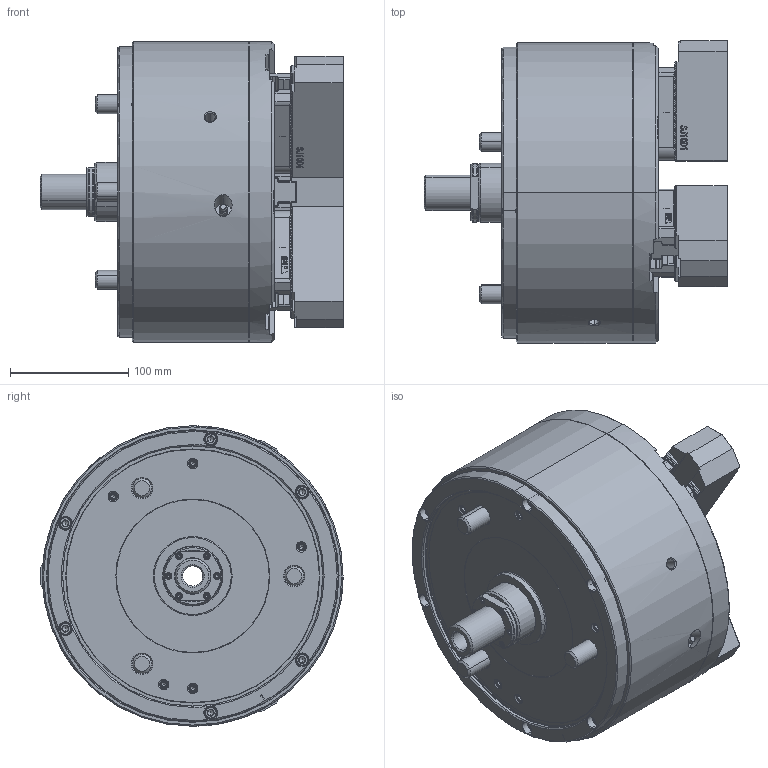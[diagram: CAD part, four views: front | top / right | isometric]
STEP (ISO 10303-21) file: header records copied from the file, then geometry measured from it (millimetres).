
FILE_DESCRIPTION (( 'STEP AP214' ), '1' );
FILE_NAME ('DL210_CL_ID.STEP', '2022-09-08T02:37:26', ( '' ), ( '' ), 'SwSTEP 2.0', 'SolidWorks 2020', '' );
FILE_SCHEMA (( 'AUTOMOTIVE_DESIGN' ));
Length unit declared in the file: millimetre
Products named in the file (5): 0030114040; 61P458879; DL210_CL_ID; 結合DL210_CL_ID^DL210; 61P390757
Assembly tree (13 placements, depth 2):
  DL210_CL_ID
    61P390757  x3
    61P458879  x3
    0030114040  x6
    結合DL210_CL_ID^DL210
Bounding box: 256.8 x 255.26 x 254 mm (x, y, z)
Volume: 7083656.2 mm3; surface area: 474865.4 mm2
Topology: 13 solids, 57 shells, 6020 faces, 16573 edges, 10784 vertices
Faces by surface type: plane 3769, cylinder 825, bspline 710, cone 678, torus 38
Entity records: 175978 total; most frequent: CARTESIAN_POINT 59281, ORIENTED_EDGE 26390, DIRECTION 20628, EDGE_CURVE 13195, LINE 8988, VECTOR 8988, VERTEX_POINT 8669, AXIS2_PLACEMENT_3D 5820
